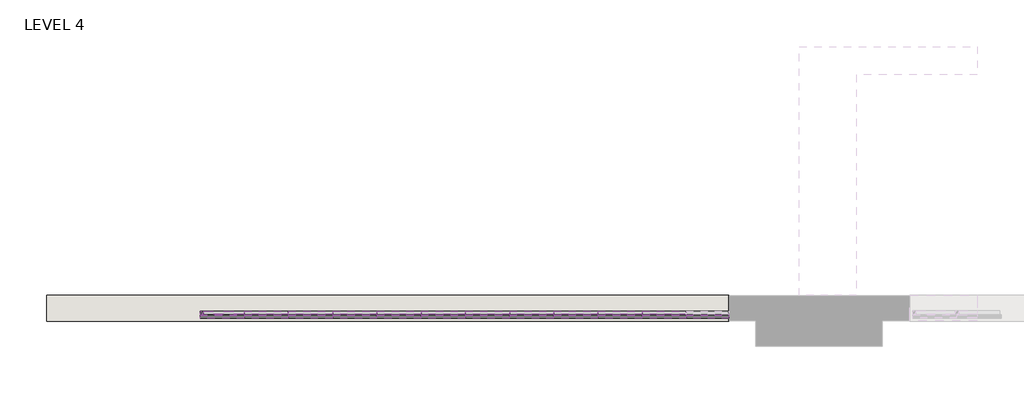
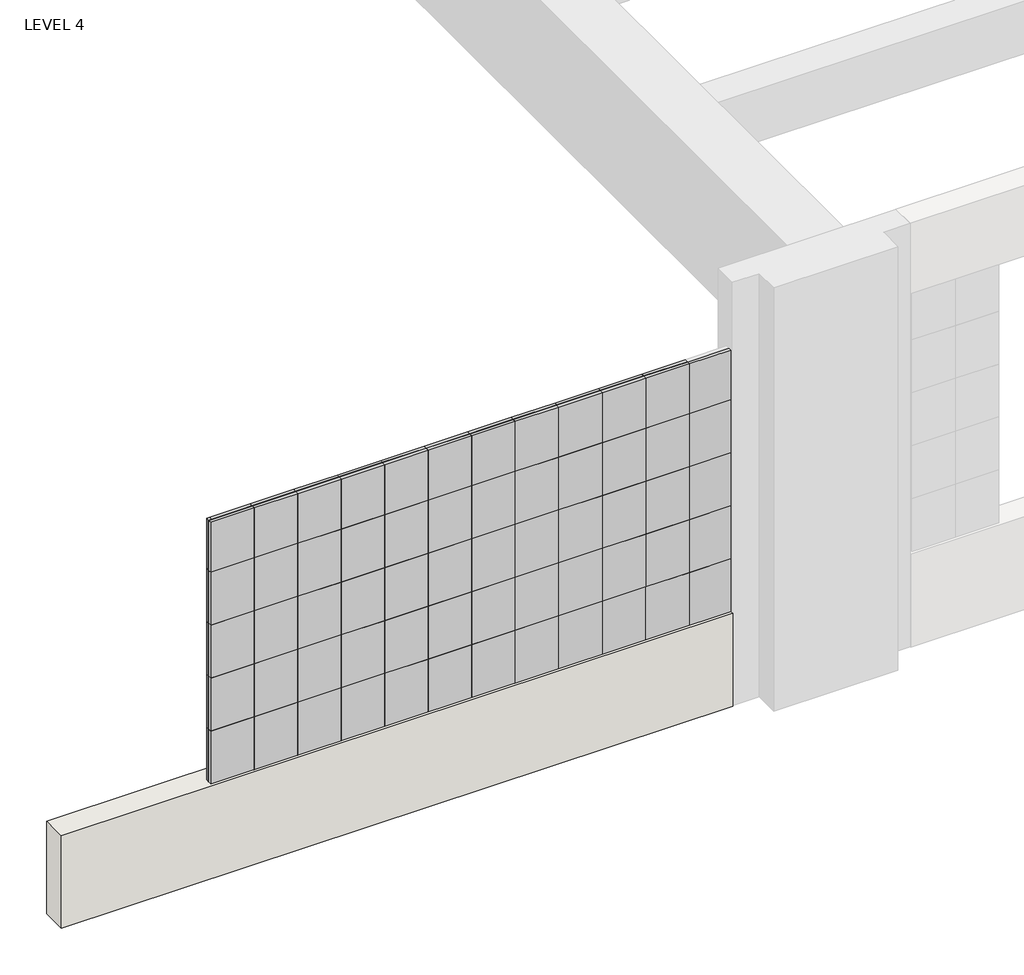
# One storey, part 1 of 26: 72 members, 60 plates, 1 wall.
"""IFC4 building model written with IfcOpenShell, lengths in millimetres."""

from ifc_helpers import new_model, si_unit, origin, origin_with_axes, place, context, project, spatial, polyline, outline, extrude, transform, mapped, element, save
from components import member_038dcf1c, member_0e6c94ff, member_643a3807, member_ec43e15b, member_2d38b123, member_a1b9a255, member_ffd569fb, system_panel_glazed_ab35d819, system_panel_glazed_1edc1c27, system_panel_glazed_418eb6cd, system_panel_glazed_5e6f1a99

model = new_model("IFC4")

# Units and contexts
model_context = context("Model", 3, world=origin())
ifc_project = project(units=[si_unit("LENGTHUNIT", "METRE", prefix="MILLI")], contexts=[model_context])

# Site, building, storey
site = spatial("IfcSite", under=ifc_project)
building = spatial("IfcBuilding", under=site)
storey = spatial("IfcBuildingStorey", under=building, Name="LEVEL 4", Elevation=0.0)

# Members
placement = place(None, origin())
member_shape = member_038dcf1c(model_context)
element("IfcMember", 1, ObjectType="Circular Mullion : 1 1/4\" Square", at=placement, inside=storey, context=model_context, shape_type="MappedRepresentation", body=[
    mapped(member_shape, transform((-48079.0333473, 87285.9413633, 2628.9), x_axis=(-1.0, 0.0, 0.0), y_axis=(0.0, -1.0, 0.0), z_axis=(0.0, 0.0, 1.0))),
])
element("IfcMember", 2, ObjectType="Circular Mullion : 1 1/4\" Square", at=placement, inside=storey, context=model_context, shape_type="MappedRepresentation", body=[
    mapped(member_shape, transform((-48079.0333473, 87285.9413633, 2171.7), x_axis=(-1.0, 0.0, 0.0), y_axis=(0.0, -1.0, 0.0), z_axis=(0.0, 0.0, 1.0))),
])
element("IfcMember", 3, ObjectType="Circular Mullion : 1 1/4\" Square", at=placement, inside=storey, context=model_context, shape_type="MappedRepresentation", body=[
    mapped(member_shape, transform((-48079.0333473, 87285.9413633, 1714.5), x_axis=(-1.0, 0.0, 0.0), y_axis=(0.0, -1.0, 0.0), z_axis=(0.0, 0.0, 1.0))),
])
element("IfcMember", 4, ObjectType="Circular Mullion : 1 1/4\" Square", at=placement, inside=storey, context=model_context, shape_type="MappedRepresentation", body=[
    mapped(member_shape, transform((-48079.0333473, 87285.9413633, 1257.3), x_axis=(-1.0, 0.0, 0.0), y_axis=(0.0, -1.0, 0.0), z_axis=(0.0, 0.0, 1.0))),
])
member_2_shape = member_0e6c94ff(model_context)
element("IfcMember", 5, ObjectType="Circular Mullion : 1 1/4\" Square", at=placement, inside=storey, context=model_context, shape_type="MappedRepresentation", body=[
    mapped(member_2_shape, transform((-48079.0333473, 87285.9413633, 3060.7), x_axis=(-1.0, 0.0, 0.0), y_axis=(0.0, -1.0, 0.0), z_axis=(0.0, 0.0, 1.0))),
])
member_3_shape = member_643a3807(model_context)
element("IfcMember", 6, ObjectType="Circular Mullion : 1 1/4\" Square", at=placement, inside=storey, context=model_context, shape_type="MappedRepresentation", body=[
    mapped(member_3_shape, transform((-47012.233347, 87285.9413633, 1257.3), x_axis=(0.0, 0.0, 1.0), y_axis=(0.0, -1.0, 0.0), z_axis=(1.0, 0.0, 0.0))),
])
element("IfcMember", 7, ObjectType="Circular Mullion : 1 1/4\" Square", at=placement, inside=storey, context=model_context, shape_type="MappedRepresentation", body=[
    mapped(member_3_shape, transform((-47367.833347, 87285.9413633, 1257.3), x_axis=(0.0, 0.0, 1.0), y_axis=(0.0, -1.0, 0.0), z_axis=(1.0, 0.0, 0.0))),
])
element("IfcMember", 8, ObjectType="Circular Mullion : 1 1/4\" Square", at=placement, inside=storey, context=model_context, shape_type="MappedRepresentation", body=[
    mapped(member_3_shape, transform((-46656.633347, 87285.9413633, 1257.3), x_axis=(0.0, 0.0, 1.0), y_axis=(0.0, -1.0, 0.0), z_axis=(1.0, 0.0, 0.0))),
])
element("IfcMember", 9, ObjectType="Circular Mullion : 1 1/4\" Square", at=placement, inside=storey, context=model_context, shape_type="MappedRepresentation", body=[
    mapped(member_3_shape, transform((-46301.033347, 87285.9413633, 1257.3), x_axis=(0.0, 0.0, 1.0), y_axis=(0.0, -1.0, 0.0), z_axis=(1.0, 0.0, 0.0))),
])
element("IfcMember", 10, ObjectType="Circular Mullion : 1 1/4\" Square", at=placement, inside=storey, context=model_context, shape_type="MappedRepresentation", body=[
    mapped(member_3_shape, transform((-45945.433347, 87285.9413633, 1257.3), x_axis=(0.0, 0.0, 1.0), y_axis=(0.0, -1.0, 0.0), z_axis=(1.0, 0.0, 0.0))),
])
element("IfcMember", 11, ObjectType="Circular Mullion : 1 1/4\" Square", at=placement, inside=storey, context=model_context, shape_type="MappedRepresentation", body=[
    mapped(member_3_shape, transform((-45589.833347, 87285.9413633, 1257.3), x_axis=(0.0, 0.0, 1.0), y_axis=(0.0, -1.0, 0.0), z_axis=(1.0, 0.0, 0.0))),
])
element("IfcMember", 12, ObjectType="Circular Mullion : 1 1/4\" Square", at=placement, inside=storey, context=model_context, shape_type="MappedRepresentation", body=[
    mapped(member_3_shape, transform((-45234.233347, 87285.9413633, 1257.3), x_axis=(0.0, 0.0, 1.0), y_axis=(0.0, -1.0, 0.0), z_axis=(1.0, 0.0, 0.0))),
])
element("IfcMember", 13, ObjectType="Circular Mullion : 1 1/4\" Square", at=placement, inside=storey, context=model_context, shape_type="MappedRepresentation", body=[
    mapped(member_3_shape, transform((-44878.633347, 87285.9413633, 1257.3), x_axis=(0.0, 0.0, 1.0), y_axis=(0.0, -1.0, 0.0), z_axis=(1.0, 0.0, 0.0))),
])
element("IfcMember", 14, ObjectType="Circular Mullion : 1 1/4\" Square", at=placement, inside=storey, context=model_context, shape_type="MappedRepresentation", body=[
    mapped(member_3_shape, transform((-44523.033347, 87285.9413633, 1257.3), x_axis=(0.0, 0.0, 1.0), y_axis=(0.0, -1.0, 0.0), z_axis=(1.0, 0.0, 0.0))),
])
element("IfcMember", 15, ObjectType="Circular Mullion : 1 1/4\" Square", at=placement, inside=storey, context=model_context, shape_type="MappedRepresentation", body=[
    mapped(member_3_shape, transform((-44167.433347, 87285.9413633, 1257.3), x_axis=(0.0, 0.0, 1.0), y_axis=(0.0, -1.0, 0.0), z_axis=(1.0, 0.0, 0.0))),
])
element("IfcMember", 16, ObjectType="Circular Mullion : 1 1/4\" Square", at=placement, inside=storey, context=model_context, shape_type="MappedRepresentation", body=[
    mapped(member_3_shape, transform((-47012.233347, 87285.9413633, 1714.5), x_axis=(0.0, 0.0, 1.0), y_axis=(0.0, -1.0, 0.0), z_axis=(1.0, 0.0, 0.0))),
])
element("IfcMember", 17, ObjectType="Circular Mullion : 1 1/4\" Square", at=placement, inside=storey, context=model_context, shape_type="MappedRepresentation", body=[
    mapped(member_3_shape, transform((-47367.833347, 87285.9413633, 1714.5), x_axis=(0.0, 0.0, 1.0), y_axis=(0.0, -1.0, 0.0), z_axis=(1.0, 0.0, 0.0))),
])
element("IfcMember", 18, ObjectType="Circular Mullion : 1 1/4\" Square", at=placement, inside=storey, context=model_context, shape_type="MappedRepresentation", body=[
    mapped(member_3_shape, transform((-46656.633347, 87285.9413633, 1714.5), x_axis=(0.0, 0.0, 1.0), y_axis=(0.0, -1.0, 0.0), z_axis=(1.0, 0.0, 0.0))),
])
element("IfcMember", 19, ObjectType="Circular Mullion : 1 1/4\" Square", at=placement, inside=storey, context=model_context, shape_type="MappedRepresentation", body=[
    mapped(member_3_shape, transform((-46301.033347, 87285.9413633, 1714.5), x_axis=(0.0, 0.0, 1.0), y_axis=(0.0, -1.0, 0.0), z_axis=(1.0, 0.0, 0.0))),
])
element("IfcMember", 20, ObjectType="Circular Mullion : 1 1/4\" Square", at=placement, inside=storey, context=model_context, shape_type="MappedRepresentation", body=[
    mapped(member_3_shape, transform((-45945.433347, 87285.9413633, 1714.5), x_axis=(0.0, 0.0, 1.0), y_axis=(0.0, -1.0, 0.0), z_axis=(1.0, 0.0, 0.0))),
])
element("IfcMember", 21, ObjectType="Circular Mullion : 1 1/4\" Square", at=placement, inside=storey, context=model_context, shape_type="MappedRepresentation", body=[
    mapped(member_3_shape, transform((-45589.833347, 87285.9413633, 1714.5), x_axis=(0.0, 0.0, 1.0), y_axis=(0.0, -1.0, 0.0), z_axis=(1.0, 0.0, 0.0))),
])
element("IfcMember", 22, ObjectType="Circular Mullion : 1 1/4\" Square", at=placement, inside=storey, context=model_context, shape_type="MappedRepresentation", body=[
    mapped(member_3_shape, transform((-45234.233347, 87285.9413633, 1714.5), x_axis=(0.0, 0.0, 1.0), y_axis=(0.0, -1.0, 0.0), z_axis=(1.0, 0.0, 0.0))),
])
element("IfcMember", 23, ObjectType="Circular Mullion : 1 1/4\" Square", at=placement, inside=storey, context=model_context, shape_type="MappedRepresentation", body=[
    mapped(member_3_shape, transform((-44878.633347, 87285.9413633, 1714.5), x_axis=(0.0, 0.0, 1.0), y_axis=(0.0, -1.0, 0.0), z_axis=(1.0, 0.0, 0.0))),
])
element("IfcMember", 24, ObjectType="Circular Mullion : 1 1/4\" Square", at=placement, inside=storey, context=model_context, shape_type="MappedRepresentation", body=[
    mapped(member_3_shape, transform((-44523.033347, 87285.9413633, 1714.5), x_axis=(0.0, 0.0, 1.0), y_axis=(0.0, -1.0, 0.0), z_axis=(1.0, 0.0, 0.0))),
])
element("IfcMember", 25, ObjectType="Circular Mullion : 1 1/4\" Square", at=placement, inside=storey, context=model_context, shape_type="MappedRepresentation", body=[
    mapped(member_3_shape, transform((-44167.433347, 87285.9413633, 1714.5), x_axis=(0.0, 0.0, 1.0), y_axis=(0.0, -1.0, 0.0), z_axis=(1.0, 0.0, 0.0))),
])
element("IfcMember", 26, ObjectType="Circular Mullion : 1 1/4\" Square", at=placement, inside=storey, context=model_context, shape_type="MappedRepresentation", body=[
    mapped(member_3_shape, transform((-47012.233347, 87285.9413633, 2171.7), x_axis=(0.0, 0.0, 1.0), y_axis=(0.0, -1.0, 0.0), z_axis=(1.0, 0.0, 0.0))),
])
element("IfcMember", 27, ObjectType="Circular Mullion : 1 1/4\" Square", at=placement, inside=storey, context=model_context, shape_type="MappedRepresentation", body=[
    mapped(member_3_shape, transform((-47367.833347, 87285.9413633, 2171.7), x_axis=(0.0, 0.0, 1.0), y_axis=(0.0, -1.0, 0.0), z_axis=(1.0, 0.0, 0.0))),
])
element("IfcMember", 28, ObjectType="Circular Mullion : 1 1/4\" Square", at=placement, inside=storey, context=model_context, shape_type="MappedRepresentation", body=[
    mapped(member_3_shape, transform((-46656.633347, 87285.9413633, 2171.7), x_axis=(0.0, 0.0, 1.0), y_axis=(0.0, -1.0, 0.0), z_axis=(1.0, 0.0, 0.0))),
])
element("IfcMember", 29, ObjectType="Circular Mullion : 1 1/4\" Square", at=placement, inside=storey, context=model_context, shape_type="MappedRepresentation", body=[
    mapped(member_3_shape, transform((-46301.033347, 87285.9413633, 2171.7), x_axis=(0.0, 0.0, 1.0), y_axis=(0.0, -1.0, 0.0), z_axis=(1.0, 0.0, 0.0))),
])
element("IfcMember", 30, ObjectType="Circular Mullion : 1 1/4\" Square", at=placement, inside=storey, context=model_context, shape_type="MappedRepresentation", body=[
    mapped(member_3_shape, transform((-45945.433347, 87285.9413633, 2171.7), x_axis=(0.0, 0.0, 1.0), y_axis=(0.0, -1.0, 0.0), z_axis=(1.0, 0.0, 0.0))),
])
element("IfcMember", 31, ObjectType="Circular Mullion : 1 1/4\" Square", at=placement, inside=storey, context=model_context, shape_type="MappedRepresentation", body=[
    mapped(member_3_shape, transform((-45589.833347, 87285.9413633, 2171.7), x_axis=(0.0, 0.0, 1.0), y_axis=(0.0, -1.0, 0.0), z_axis=(1.0, 0.0, 0.0))),
])
element("IfcMember", 32, ObjectType="Circular Mullion : 1 1/4\" Square", at=placement, inside=storey, context=model_context, shape_type="MappedRepresentation", body=[
    mapped(member_3_shape, transform((-45234.233347, 87285.9413633, 2171.7), x_axis=(0.0, 0.0, 1.0), y_axis=(0.0, -1.0, 0.0), z_axis=(1.0, 0.0, 0.0))),
])
element("IfcMember", 33, ObjectType="Circular Mullion : 1 1/4\" Square", at=placement, inside=storey, context=model_context, shape_type="MappedRepresentation", body=[
    mapped(member_3_shape, transform((-44878.633347, 87285.9413633, 2171.7), x_axis=(0.0, 0.0, 1.0), y_axis=(0.0, -1.0, 0.0), z_axis=(1.0, 0.0, 0.0))),
])
element("IfcMember", 34, ObjectType="Circular Mullion : 1 1/4\" Square", at=placement, inside=storey, context=model_context, shape_type="MappedRepresentation", body=[
    mapped(member_3_shape, transform((-44523.033347, 87285.9413633, 2171.7), x_axis=(0.0, 0.0, 1.0), y_axis=(0.0, -1.0, 0.0), z_axis=(1.0, 0.0, 0.0))),
])
element("IfcMember", 35, ObjectType="Circular Mullion : 1 1/4\" Square", at=placement, inside=storey, context=model_context, shape_type="MappedRepresentation", body=[
    mapped(member_3_shape, transform((-44167.433347, 87285.9413633, 2171.7), x_axis=(0.0, 0.0, 1.0), y_axis=(0.0, -1.0, 0.0), z_axis=(1.0, 0.0, 0.0))),
])
element("IfcMember", 36, ObjectType="Circular Mullion : 1 1/4\" Square", at=placement, inside=storey, context=model_context, shape_type="MappedRepresentation", body=[
    mapped(member_3_shape, transform((-47012.233347, 87285.9413633, 2628.9), x_axis=(0.0, 0.0, 1.0), y_axis=(0.0, -1.0, 0.0), z_axis=(1.0, 0.0, 0.0))),
])
element("IfcMember", 37, ObjectType="Circular Mullion : 1 1/4\" Square", at=placement, inside=storey, context=model_context, shape_type="MappedRepresentation", body=[
    mapped(member_3_shape, transform((-47367.833347, 87285.9413633, 2628.9), x_axis=(0.0, 0.0, 1.0), y_axis=(0.0, -1.0, 0.0), z_axis=(1.0, 0.0, 0.0))),
])
element("IfcMember", 38, ObjectType="Circular Mullion : 1 1/4\" Square", at=placement, inside=storey, context=model_context, shape_type="MappedRepresentation", body=[
    mapped(member_3_shape, transform((-46656.633347, 87285.9413633, 2628.9), x_axis=(0.0, 0.0, 1.0), y_axis=(0.0, -1.0, 0.0), z_axis=(1.0, 0.0, 0.0))),
])
element("IfcMember", 39, ObjectType="Circular Mullion : 1 1/4\" Square", at=placement, inside=storey, context=model_context, shape_type="MappedRepresentation", body=[
    mapped(member_3_shape, transform((-46301.033347, 87285.9413633, 2628.9), x_axis=(0.0, 0.0, 1.0), y_axis=(0.0, -1.0, 0.0), z_axis=(1.0, 0.0, 0.0))),
])
element("IfcMember", 40, ObjectType="Circular Mullion : 1 1/4\" Square", at=placement, inside=storey, context=model_context, shape_type="MappedRepresentation", body=[
    mapped(member_3_shape, transform((-45945.433347, 87285.9413633, 2628.9), x_axis=(0.0, 0.0, 1.0), y_axis=(0.0, -1.0, 0.0), z_axis=(1.0, 0.0, 0.0))),
])
element("IfcMember", 41, ObjectType="Circular Mullion : 1 1/4\" Square", at=placement, inside=storey, context=model_context, shape_type="MappedRepresentation", body=[
    mapped(member_3_shape, transform((-45589.833347, 87285.9413633, 2628.9), x_axis=(0.0, 0.0, 1.0), y_axis=(0.0, -1.0, 0.0), z_axis=(1.0, 0.0, 0.0))),
])
element("IfcMember", 42, ObjectType="Circular Mullion : 1 1/4\" Square", at=placement, inside=storey, context=model_context, shape_type="MappedRepresentation", body=[
    mapped(member_3_shape, transform((-45234.233347, 87285.9413633, 2628.9), x_axis=(0.0, 0.0, 1.0), y_axis=(0.0, -1.0, 0.0), z_axis=(1.0, 0.0, 0.0))),
])
element("IfcMember", 43, ObjectType="Circular Mullion : 1 1/4\" Square", at=placement, inside=storey, context=model_context, shape_type="MappedRepresentation", body=[
    mapped(member_3_shape, transform((-44878.633347, 87285.9413633, 2628.9), x_axis=(0.0, 0.0, 1.0), y_axis=(0.0, -1.0, 0.0), z_axis=(1.0, 0.0, 0.0))),
])
element("IfcMember", 44, ObjectType="Circular Mullion : 1 1/4\" Square", at=placement, inside=storey, context=model_context, shape_type="MappedRepresentation", body=[
    mapped(member_3_shape, transform((-44523.033347, 87285.9413633, 2628.9), x_axis=(0.0, 0.0, 1.0), y_axis=(0.0, -1.0, 0.0), z_axis=(1.0, 0.0, 0.0))),
])
element("IfcMember", 45, ObjectType="Circular Mullion : 1 1/4\" Square", at=placement, inside=storey, context=model_context, shape_type="MappedRepresentation", body=[
    mapped(member_3_shape, transform((-44167.433347, 87285.9413633, 2628.9), x_axis=(0.0, 0.0, 1.0), y_axis=(0.0, -1.0, 0.0), z_axis=(1.0, 0.0, 0.0))),
])
member_4_shape = member_ec43e15b(model_context)
element("IfcMember", 46, ObjectType="Circular Mullion : 1 1/4\" Square", at=placement, inside=storey, context=model_context, shape_type="MappedRepresentation", body=[
    mapped(member_4_shape, transform((-47367.833347, 87285.9413633, 3060.7), x_axis=(0.0, 0.0, 1.0), y_axis=(0.0, -1.0, 0.0), z_axis=(1.0, 0.0, 0.0))),
])
element("IfcMember", 47, ObjectType="Circular Mullion : 1 1/4\" Square", at=placement, inside=storey, context=model_context, shape_type="MappedRepresentation", body=[
    mapped(member_4_shape, transform((-47012.233347, 87285.9413633, 3060.7), x_axis=(0.0, 0.0, 1.0), y_axis=(0.0, -1.0, 0.0), z_axis=(1.0, 0.0, 0.0))),
])
element("IfcMember", 48, ObjectType="Circular Mullion : 1 1/4\" Square", at=placement, inside=storey, context=model_context, shape_type="MappedRepresentation", body=[
    mapped(member_4_shape, transform((-46656.633347, 87285.9413633, 3060.7), x_axis=(0.0, 0.0, 1.0), y_axis=(0.0, -1.0, 0.0), z_axis=(1.0, 0.0, 0.0))),
])
element("IfcMember", 49, ObjectType="Circular Mullion : 1 1/4\" Square", at=placement, inside=storey, context=model_context, shape_type="MappedRepresentation", body=[
    mapped(member_4_shape, transform((-46301.033347, 87285.9413633, 3060.7), x_axis=(0.0, 0.0, 1.0), y_axis=(0.0, -1.0, 0.0), z_axis=(1.0, 0.0, 0.0))),
])
element("IfcMember", 50, ObjectType="Circular Mullion : 1 1/4\" Square", at=placement, inside=storey, context=model_context, shape_type="MappedRepresentation", body=[
    mapped(member_4_shape, transform((-45945.433347, 87285.9413633, 3060.7), x_axis=(0.0, 0.0, 1.0), y_axis=(0.0, -1.0, 0.0), z_axis=(1.0, 0.0, 0.0))),
])
element("IfcMember", 51, ObjectType="Circular Mullion : 1 1/4\" Square", at=placement, inside=storey, context=model_context, shape_type="MappedRepresentation", body=[
    mapped(member_4_shape, transform((-45589.833347, 87285.9413633, 3060.7), x_axis=(0.0, 0.0, 1.0), y_axis=(0.0, -1.0, 0.0), z_axis=(1.0, 0.0, 0.0))),
])
element("IfcMember", 52, ObjectType="Circular Mullion : 1 1/4\" Square", at=placement, inside=storey, context=model_context, shape_type="MappedRepresentation", body=[
    mapped(member_4_shape, transform((-45234.233347, 87285.9413633, 3060.7), x_axis=(0.0, 0.0, 1.0), y_axis=(0.0, -1.0, 0.0), z_axis=(1.0, 0.0, 0.0))),
])
element("IfcMember", 53, ObjectType="Circular Mullion : 1 1/4\" Square", at=placement, inside=storey, context=model_context, shape_type="MappedRepresentation", body=[
    mapped(member_4_shape, transform((-44878.633347, 87285.9413633, 3060.7), x_axis=(0.0, 0.0, 1.0), y_axis=(0.0, -1.0, 0.0), z_axis=(1.0, 0.0, 0.0))),
])
element("IfcMember", 54, ObjectType="Circular Mullion : 1 1/4\" Square", at=placement, inside=storey, context=model_context, shape_type="MappedRepresentation", body=[
    mapped(member_4_shape, transform((-44167.433347, 87285.9413633, 3060.7), x_axis=(0.0, 0.0, 1.0), y_axis=(0.0, -1.0, 0.0), z_axis=(1.0, 0.0, 0.0))),
])
element("IfcMember", 55, ObjectType="Circular Mullion : 1 1/4\" Square", at=placement, inside=storey, context=model_context, shape_type="MappedRepresentation", body=[
    mapped(member_4_shape, transform((-44523.033347, 87285.9413633, 3060.7), x_axis=(0.0, 0.0, 1.0), y_axis=(0.0, -1.0, 0.0), z_axis=(1.0, 0.0, 0.0))),
])
member_5_shape = member_2d38b123(model_context)
element("IfcMember", 56, ObjectType="Circular Mullion : 1 1/4\" Square", at=placement, inside=storey, context=model_context, shape_type="MappedRepresentation", body=[
    mapped(member_5_shape, transform((-47723.433347, 87285.9413633, 3060.7), x_axis=(0.0, 0.0, 1.0), y_axis=(0.0, -1.0, 0.0), z_axis=(1.0, 0.0, 0.0))),
])
element("IfcMember", 57, ObjectType="Circular Mullion : 1 1/4\" Square", at=placement, inside=storey, context=model_context, shape_type="MappedRepresentation", body=[
    mapped(member_4_shape, transform((-47367.833347, 87285.9413633, 800.1), x_axis=(0.0, 0.0, -1.0), y_axis=(0.0, -1.0, 0.0), z_axis=(-1.0, 0.0, 0.0))),
])
element("IfcMember", 58, ObjectType="Circular Mullion : 1 1/4\" Square", at=placement, inside=storey, context=model_context, shape_type="MappedRepresentation", body=[
    mapped(member_4_shape, transform((-47723.433347, 87285.9413633, 800.1), x_axis=(0.0, 0.0, -1.0), y_axis=(0.0, -1.0, 0.0), z_axis=(-1.0, 0.0, 0.0))),
])
element("IfcMember", 59, ObjectType="Circular Mullion : 1 1/4\" Square", at=placement, inside=storey, context=model_context, shape_type="MappedRepresentation", body=[
    mapped(member_4_shape, transform((-47012.233347, 87285.9413633, 800.1), x_axis=(0.0, 0.0, -1.0), y_axis=(0.0, -1.0, 0.0), z_axis=(-1.0, 0.0, 0.0))),
])
element("IfcMember", 60, ObjectType="Circular Mullion : 1 1/4\" Square", at=placement, inside=storey, context=model_context, shape_type="MappedRepresentation", body=[
    mapped(member_4_shape, transform((-46656.633347, 87285.9413633, 800.1), x_axis=(0.0, 0.0, -1.0), y_axis=(0.0, -1.0, 0.0), z_axis=(-1.0, 0.0, 0.0))),
])
element("IfcMember", 61, ObjectType="Circular Mullion : 1 1/4\" Square", at=placement, inside=storey, context=model_context, shape_type="MappedRepresentation", body=[
    mapped(member_4_shape, transform((-46301.033347, 87285.9413633, 800.1), x_axis=(0.0, 0.0, -1.0), y_axis=(0.0, -1.0, 0.0), z_axis=(-1.0, 0.0, 0.0))),
])
element("IfcMember", 62, ObjectType="Circular Mullion : 1 1/4\" Square", at=placement, inside=storey, context=model_context, shape_type="MappedRepresentation", body=[
    mapped(member_4_shape, transform((-45945.433347, 87285.9413633, 800.1), x_axis=(0.0, 0.0, -1.0), y_axis=(0.0, -1.0, 0.0), z_axis=(-1.0, 0.0, 0.0))),
])
element("IfcMember", 63, ObjectType="Circular Mullion : 1 1/4\" Square", at=placement, inside=storey, context=model_context, shape_type="MappedRepresentation", body=[
    mapped(member_4_shape, transform((-45589.833347, 87285.9413633, 800.1), x_axis=(0.0, 0.0, -1.0), y_axis=(0.0, -1.0, 0.0), z_axis=(-1.0, 0.0, 0.0))),
])
element("IfcMember", 64, ObjectType="Circular Mullion : 1 1/4\" Square", at=placement, inside=storey, context=model_context, shape_type="MappedRepresentation", body=[
    mapped(member_4_shape, transform((-45234.233347, 87285.9413633, 800.1), x_axis=(0.0, 0.0, -1.0), y_axis=(0.0, -1.0, 0.0), z_axis=(-1.0, 0.0, 0.0))),
])
element("IfcMember", 65, ObjectType="Circular Mullion : 1 1/4\" Square", at=placement, inside=storey, context=model_context, shape_type="MappedRepresentation", body=[
    mapped(member_4_shape, transform((-44878.633347, 87285.9413633, 800.1), x_axis=(0.0, 0.0, -1.0), y_axis=(0.0, -1.0, 0.0), z_axis=(-1.0, 0.0, 0.0))),
])
element("IfcMember", 66, ObjectType="Circular Mullion : 1 1/4\" Square", at=placement, inside=storey, context=model_context, shape_type="MappedRepresentation", body=[
    mapped(member_4_shape, transform((-44523.033347, 87285.9413633, 800.1), x_axis=(0.0, 0.0, -1.0), y_axis=(0.0, -1.0, 0.0), z_axis=(-1.0, 0.0, 0.0))),
])
member_6_shape = member_a1b9a255(model_context)
element("IfcMember", 67, ObjectType="Circular Mullion : 1 1/4\" Square", at=placement, inside=storey, context=model_context, shape_type="MappedRepresentation", body=[
    mapped(member_6_shape, transform((-44167.433347, 87285.9413633, 800.1), x_axis=(0.0, 0.0, -1.0), y_axis=(0.0, -1.0, 0.0), z_axis=(-1.0, 0.0, 0.0))),
])
element("IfcMember", 68, ObjectType="Circular Mullion : 1 1/4\" Square", at=placement, inside=storey, context=model_context, shape_type="MappedRepresentation", body=[
    mapped(member_5_shape, transform((-48053.6333473, 87285.9413633, 800.1), x_axis=(0.0, 0.0, -1.0), y_axis=(0.0, -1.0, 0.0), z_axis=(-1.0, 0.0, 0.0))),
])
member_7_shape = member_ffd569fb(model_context)
element("IfcMember", 69, ObjectType="Circular Mullion : 1 1/4\" Square", at=placement, inside=storey, context=model_context, shape_type="MappedRepresentation", body=[
    mapped(member_7_shape, transform((-47723.433347, 87285.9413633, 1257.3), x_axis=(0.0, 0.0, 1.0), y_axis=(0.0, -1.0, 0.0), z_axis=(1.0, 0.0, 0.0))),
])
element("IfcMember", 70, ObjectType="Circular Mullion : 1 1/4\" Square", at=placement, inside=storey, context=model_context, shape_type="MappedRepresentation", body=[
    mapped(member_7_shape, transform((-47723.433347, 87285.9413633, 1714.5), x_axis=(0.0, 0.0, 1.0), y_axis=(0.0, -1.0, 0.0), z_axis=(1.0, 0.0, 0.0))),
])
element("IfcMember", 71, ObjectType="Circular Mullion : 1 1/4\" Square", at=placement, inside=storey, context=model_context, shape_type="MappedRepresentation", body=[
    mapped(member_7_shape, transform((-47723.433347, 87285.9413633, 2171.7), x_axis=(0.0, 0.0, 1.0), y_axis=(0.0, -1.0, 0.0), z_axis=(1.0, 0.0, 0.0))),
])
element("IfcMember", 72, ObjectType="Circular Mullion : 1 1/4\" Square", at=placement, inside=storey, context=model_context, shape_type="MappedRepresentation", body=[
    mapped(member_7_shape, transform((-47723.433347, 87285.9413633, 2628.9), x_axis=(0.0, 0.0, 1.0), y_axis=(0.0, -1.0, 0.0), z_axis=(1.0, 0.0, 0.0))),
])

# Plates
system_panel_glazed_shape = system_panel_glazed_ab35d819(model_context)
element("IfcPlate", 73, ObjectType="System Panel : Glazed", at=placement, inside=storey, context=model_context, shape_type="MappedRepresentation", body=[
    mapped(system_panel_glazed_shape, transform((-47901.2333471, 87285.9413633, 800.1), x_axis=(1.0, 0.0, 0.0), y_axis=(0.0, 1.0, 0.0), z_axis=(0.0, 0.0, 1.0))),
])
element("IfcPlate", 74, ObjectType="System Panel : Glazed", at=placement, inside=storey, context=model_context, shape_type="MappedRepresentation", body=[
    mapped(system_panel_glazed_shape, transform((-44345.233347, 87285.9413633, 800.1), x_axis=(1.0, 0.0, 0.0), y_axis=(0.0, 1.0, 0.0), z_axis=(0.0, 0.0, 1.0))),
])
element("IfcPlate", 75, ObjectType="System Panel : Glazed", at=placement, inside=storey, context=model_context, shape_type="MappedRepresentation", body=[
    mapped(system_panel_glazed_shape, transform((-44700.833347, 87285.9413633, 800.1), x_axis=(1.0, 0.0, 0.0), y_axis=(0.0, 1.0, 0.0), z_axis=(0.0, 0.0, 1.0))),
])
element("IfcPlate", 76, ObjectType="System Panel : Glazed", at=placement, inside=storey, context=model_context, shape_type="MappedRepresentation", body=[
    mapped(system_panel_glazed_shape, transform((-45056.433347, 87285.9413633, 800.1), x_axis=(1.0, 0.0, 0.0), y_axis=(0.0, 1.0, 0.0), z_axis=(0.0, 0.0, 1.0))),
])
element("IfcPlate", 77, ObjectType="System Panel : Glazed", at=placement, inside=storey, context=model_context, shape_type="MappedRepresentation", body=[
    mapped(system_panel_glazed_shape, transform((-45412.033347, 87285.9413633, 800.1), x_axis=(1.0, 0.0, 0.0), y_axis=(0.0, 1.0, 0.0), z_axis=(0.0, 0.0, 1.0))),
])
element("IfcPlate", 78, ObjectType="System Panel : Glazed", at=placement, inside=storey, context=model_context, shape_type="MappedRepresentation", body=[
    mapped(system_panel_glazed_shape, transform((-45767.633347, 87285.9413633, 800.1), x_axis=(1.0, 0.0, 0.0), y_axis=(0.0, 1.0, 0.0), z_axis=(0.0, 0.0, 1.0))),
])
element("IfcPlate", 79, ObjectType="System Panel : Glazed", at=placement, inside=storey, context=model_context, shape_type="MappedRepresentation", body=[
    mapped(system_panel_glazed_shape, transform((-46123.233347, 87285.9413633, 800.1), x_axis=(1.0, 0.0, 0.0), y_axis=(0.0, 1.0, 0.0), z_axis=(0.0, 0.0, 1.0))),
])
element("IfcPlate", 80, ObjectType="System Panel : Glazed", at=placement, inside=storey, context=model_context, shape_type="MappedRepresentation", body=[
    mapped(system_panel_glazed_shape, transform((-46478.833347, 87285.9413633, 800.1), x_axis=(1.0, 0.0, 0.0), y_axis=(0.0, 1.0, 0.0), z_axis=(0.0, 0.0, 1.0))),
])
element("IfcPlate", 81, ObjectType="System Panel : Glazed", at=placement, inside=storey, context=model_context, shape_type="MappedRepresentation", body=[
    mapped(system_panel_glazed_shape, transform((-46834.433347, 87285.9413633, 800.1), x_axis=(1.0, 0.0, 0.0), y_axis=(0.0, 1.0, 0.0), z_axis=(0.0, 0.0, 1.0))),
])
element("IfcPlate", 82, ObjectType="System Panel : Glazed", at=placement, inside=storey, context=model_context, shape_type="MappedRepresentation", body=[
    mapped(system_panel_glazed_shape, transform((-47901.2333471, 87285.9413633, 1257.3), x_axis=(1.0, 0.0, 0.0), y_axis=(0.0, 1.0, 0.0), z_axis=(0.0, 0.0, 1.0))),
])
element("IfcPlate", 83, ObjectType="System Panel : Glazed", at=placement, inside=storey, context=model_context, shape_type="MappedRepresentation", body=[
    mapped(system_panel_glazed_shape, transform((-44700.833347, 87285.9413633, 1257.3), x_axis=(1.0, 0.0, 0.0), y_axis=(0.0, 1.0, 0.0), z_axis=(0.0, 0.0, 1.0))),
])
element("IfcPlate", 84, ObjectType="System Panel : Glazed", at=placement, inside=storey, context=model_context, shape_type="MappedRepresentation", body=[
    mapped(system_panel_glazed_shape, transform((-45056.433347, 87285.9413633, 1257.3), x_axis=(1.0, 0.0, 0.0), y_axis=(0.0, 1.0, 0.0), z_axis=(0.0, 0.0, 1.0))),
])
element("IfcPlate", 85, ObjectType="System Panel : Glazed", at=placement, inside=storey, context=model_context, shape_type="MappedRepresentation", body=[
    mapped(system_panel_glazed_shape, transform((-45412.033347, 87285.9413633, 1257.3), x_axis=(1.0, 0.0, 0.0), y_axis=(0.0, 1.0, 0.0), z_axis=(0.0, 0.0, 1.0))),
])
element("IfcPlate", 86, ObjectType="System Panel : Glazed", at=placement, inside=storey, context=model_context, shape_type="MappedRepresentation", body=[
    mapped(system_panel_glazed_shape, transform((-45767.633347, 87285.9413633, 1257.3), x_axis=(1.0, 0.0, 0.0), y_axis=(0.0, 1.0, 0.0), z_axis=(0.0, 0.0, 1.0))),
])
element("IfcPlate", 87, ObjectType="System Panel : Glazed", at=placement, inside=storey, context=model_context, shape_type="MappedRepresentation", body=[
    mapped(system_panel_glazed_shape, transform((-46123.233347, 87285.9413633, 1257.3), x_axis=(1.0, 0.0, 0.0), y_axis=(0.0, 1.0, 0.0), z_axis=(0.0, 0.0, 1.0))),
])
element("IfcPlate", 88, ObjectType="System Panel : Glazed", at=placement, inside=storey, context=model_context, shape_type="MappedRepresentation", body=[
    mapped(system_panel_glazed_shape, transform((-46478.833347, 87285.9413633, 1257.3), x_axis=(1.0, 0.0, 0.0), y_axis=(0.0, 1.0, 0.0), z_axis=(0.0, 0.0, 1.0))),
])
element("IfcPlate", 89, ObjectType="System Panel : Glazed", at=placement, inside=storey, context=model_context, shape_type="MappedRepresentation", body=[
    mapped(system_panel_glazed_shape, transform((-46834.433347, 87285.9413633, 1257.3), x_axis=(1.0, 0.0, 0.0), y_axis=(0.0, 1.0, 0.0), z_axis=(0.0, 0.0, 1.0))),
])
element("IfcPlate", 90, ObjectType="System Panel : Glazed", at=placement, inside=storey, context=model_context, shape_type="MappedRepresentation", body=[
    mapped(system_panel_glazed_shape, transform((-44345.233347, 87285.9413633, 1257.3), x_axis=(1.0, 0.0, 0.0), y_axis=(0.0, 1.0, 0.0), z_axis=(0.0, 0.0, 1.0))),
])
element("IfcPlate", 91, ObjectType="System Panel : Glazed", at=placement, inside=storey, context=model_context, shape_type="MappedRepresentation", body=[
    mapped(system_panel_glazed_shape, transform((-47901.2333471, 87285.9413633, 1714.5), x_axis=(1.0, 0.0, 0.0), y_axis=(0.0, 1.0, 0.0), z_axis=(0.0, 0.0, 1.0))),
])
element("IfcPlate", 92, ObjectType="System Panel : Glazed", at=placement, inside=storey, context=model_context, shape_type="MappedRepresentation", body=[
    mapped(system_panel_glazed_shape, transform((-44700.833347, 87285.9413633, 1714.5), x_axis=(1.0, 0.0, 0.0), y_axis=(0.0, 1.0, 0.0), z_axis=(0.0, 0.0, 1.0))),
])
element("IfcPlate", 93, ObjectType="System Panel : Glazed", at=placement, inside=storey, context=model_context, shape_type="MappedRepresentation", body=[
    mapped(system_panel_glazed_shape, transform((-45056.433347, 87285.9413633, 1714.5), x_axis=(1.0, 0.0, 0.0), y_axis=(0.0, 1.0, 0.0), z_axis=(0.0, 0.0, 1.0))),
])
element("IfcPlate", 94, ObjectType="System Panel : Glazed", at=placement, inside=storey, context=model_context, shape_type="MappedRepresentation", body=[
    mapped(system_panel_glazed_shape, transform((-45412.033347, 87285.9413633, 1714.5), x_axis=(1.0, 0.0, 0.0), y_axis=(0.0, 1.0, 0.0), z_axis=(0.0, 0.0, 1.0))),
])
element("IfcPlate", 95, ObjectType="System Panel : Glazed", at=placement, inside=storey, context=model_context, shape_type="MappedRepresentation", body=[
    mapped(system_panel_glazed_shape, transform((-45767.633347, 87285.9413633, 1714.5), x_axis=(1.0, 0.0, 0.0), y_axis=(0.0, 1.0, 0.0), z_axis=(0.0, 0.0, 1.0))),
])
element("IfcPlate", 96, ObjectType="System Panel : Glazed", at=placement, inside=storey, context=model_context, shape_type="MappedRepresentation", body=[
    mapped(system_panel_glazed_shape, transform((-46123.233347, 87285.9413633, 1714.5), x_axis=(1.0, 0.0, 0.0), y_axis=(0.0, 1.0, 0.0), z_axis=(0.0, 0.0, 1.0))),
])
element("IfcPlate", 97, ObjectType="System Panel : Glazed", at=placement, inside=storey, context=model_context, shape_type="MappedRepresentation", body=[
    mapped(system_panel_glazed_shape, transform((-46478.833347, 87285.9413633, 1714.5), x_axis=(1.0, 0.0, 0.0), y_axis=(0.0, 1.0, 0.0), z_axis=(0.0, 0.0, 1.0))),
])
element("IfcPlate", 98, ObjectType="System Panel : Glazed", at=placement, inside=storey, context=model_context, shape_type="MappedRepresentation", body=[
    mapped(system_panel_glazed_shape, transform((-46834.433347, 87285.9413633, 1714.5), x_axis=(1.0, 0.0, 0.0), y_axis=(0.0, 1.0, 0.0), z_axis=(0.0, 0.0, 1.0))),
])
element("IfcPlate", 99, ObjectType="System Panel : Glazed", at=placement, inside=storey, context=model_context, shape_type="MappedRepresentation", body=[
    mapped(system_panel_glazed_shape, transform((-44345.233347, 87285.9413633, 1714.5), x_axis=(1.0, 0.0, 0.0), y_axis=(0.0, 1.0, 0.0), z_axis=(0.0, 0.0, 1.0))),
])
element("IfcPlate", 100, ObjectType="System Panel : Glazed", at=placement, inside=storey, context=model_context, shape_type="MappedRepresentation", body=[
    mapped(system_panel_glazed_shape, transform((-47901.2333471, 87285.9413633, 2171.7), x_axis=(1.0, 0.0, 0.0), y_axis=(0.0, 1.0, 0.0), z_axis=(0.0, 0.0, 1.0))),
])
element("IfcPlate", 101, ObjectType="System Panel : Glazed", at=placement, inside=storey, context=model_context, shape_type="MappedRepresentation", body=[
    mapped(system_panel_glazed_shape, transform((-44700.833347, 87285.9413633, 2171.7), x_axis=(1.0, 0.0, 0.0), y_axis=(0.0, 1.0, 0.0), z_axis=(0.0, 0.0, 1.0))),
])
element("IfcPlate", 102, ObjectType="System Panel : Glazed", at=placement, inside=storey, context=model_context, shape_type="MappedRepresentation", body=[
    mapped(system_panel_glazed_shape, transform((-45056.433347, 87285.9413633, 2171.7), x_axis=(1.0, 0.0, 0.0), y_axis=(0.0, 1.0, 0.0), z_axis=(0.0, 0.0, 1.0))),
])
element("IfcPlate", 103, ObjectType="System Panel : Glazed", at=placement, inside=storey, context=model_context, shape_type="MappedRepresentation", body=[
    mapped(system_panel_glazed_shape, transform((-45412.033347, 87285.9413633, 2171.7), x_axis=(1.0, 0.0, 0.0), y_axis=(0.0, 1.0, 0.0), z_axis=(0.0, 0.0, 1.0))),
])
element("IfcPlate", 104, ObjectType="System Panel : Glazed", at=placement, inside=storey, context=model_context, shape_type="MappedRepresentation", body=[
    mapped(system_panel_glazed_shape, transform((-45767.633347, 87285.9413633, 2171.7), x_axis=(1.0, 0.0, 0.0), y_axis=(0.0, 1.0, 0.0), z_axis=(0.0, 0.0, 1.0))),
])
element("IfcPlate", 105, ObjectType="System Panel : Glazed", at=placement, inside=storey, context=model_context, shape_type="MappedRepresentation", body=[
    mapped(system_panel_glazed_shape, transform((-46123.233347, 87285.9413633, 2171.7), x_axis=(1.0, 0.0, 0.0), y_axis=(0.0, 1.0, 0.0), z_axis=(0.0, 0.0, 1.0))),
])
element("IfcPlate", 106, ObjectType="System Panel : Glazed", at=placement, inside=storey, context=model_context, shape_type="MappedRepresentation", body=[
    mapped(system_panel_glazed_shape, transform((-46478.833347, 87285.9413633, 2171.7), x_axis=(1.0, 0.0, 0.0), y_axis=(0.0, 1.0, 0.0), z_axis=(0.0, 0.0, 1.0))),
])
element("IfcPlate", 107, ObjectType="System Panel : Glazed", at=placement, inside=storey, context=model_context, shape_type="MappedRepresentation", body=[
    mapped(system_panel_glazed_shape, transform((-46834.433347, 87285.9413633, 2171.7), x_axis=(1.0, 0.0, 0.0), y_axis=(0.0, 1.0, 0.0), z_axis=(0.0, 0.0, 1.0))),
])
element("IfcPlate", 108, ObjectType="System Panel : Glazed", at=placement, inside=storey, context=model_context, shape_type="MappedRepresentation", body=[
    mapped(system_panel_glazed_shape, transform((-44345.233347, 87285.9413633, 2171.7), x_axis=(1.0, 0.0, 0.0), y_axis=(0.0, 1.0, 0.0), z_axis=(0.0, 0.0, 1.0))),
])
element("IfcPlate", 109, ObjectType="System Panel : Glazed", at=placement, inside=storey, context=model_context, shape_type="MappedRepresentation", body=[
    mapped(system_panel_glazed_shape, transform((-47545.633347, 87285.9413633, 800.1), x_axis=(1.0, 0.0, 0.0), y_axis=(0.0, 1.0, 0.0), z_axis=(0.0, 0.0, 1.0))),
])
element("IfcPlate", 110, ObjectType="System Panel : Glazed", at=placement, inside=storey, context=model_context, shape_type="MappedRepresentation", body=[
    mapped(system_panel_glazed_shape, transform((-47545.633347, 87285.9413633, 1257.3), x_axis=(1.0, 0.0, 0.0), y_axis=(0.0, 1.0, 0.0), z_axis=(0.0, 0.0, 1.0))),
])
element("IfcPlate", 111, ObjectType="System Panel : Glazed", at=placement, inside=storey, context=model_context, shape_type="MappedRepresentation", body=[
    mapped(system_panel_glazed_shape, transform((-47545.633347, 87285.9413633, 1714.5), x_axis=(1.0, 0.0, 0.0), y_axis=(0.0, 1.0, 0.0), z_axis=(0.0, 0.0, 1.0))),
])
element("IfcPlate", 112, ObjectType="System Panel : Glazed", at=placement, inside=storey, context=model_context, shape_type="MappedRepresentation", body=[
    mapped(system_panel_glazed_shape, transform((-47545.633347, 87285.9413633, 2171.7), x_axis=(1.0, 0.0, 0.0), y_axis=(0.0, 1.0, 0.0), z_axis=(0.0, 0.0, 1.0))),
])
element("IfcPlate", 113, ObjectType="System Panel : Glazed", at=placement, inside=storey, context=model_context, shape_type="MappedRepresentation", body=[
    mapped(system_panel_glazed_shape, transform((-47190.033347, 87285.9413633, 800.1), x_axis=(1.0, 0.0, 0.0), y_axis=(0.0, 1.0, 0.0), z_axis=(0.0, 0.0, 1.0))),
])
element("IfcPlate", 114, ObjectType="System Panel : Glazed", at=placement, inside=storey, context=model_context, shape_type="MappedRepresentation", body=[
    mapped(system_panel_glazed_shape, transform((-47190.033347, 87285.9413633, 1257.3), x_axis=(1.0, 0.0, 0.0), y_axis=(0.0, 1.0, 0.0), z_axis=(0.0, 0.0, 1.0))),
])
element("IfcPlate", 115, ObjectType="System Panel : Glazed", at=placement, inside=storey, context=model_context, shape_type="MappedRepresentation", body=[
    mapped(system_panel_glazed_shape, transform((-47190.033347, 87285.9413633, 1714.5), x_axis=(1.0, 0.0, 0.0), y_axis=(0.0, 1.0, 0.0), z_axis=(0.0, 0.0, 1.0))),
])
element("IfcPlate", 116, ObjectType="System Panel : Glazed", at=placement, inside=storey, context=model_context, shape_type="MappedRepresentation", body=[
    mapped(system_panel_glazed_shape, transform((-47190.033347, 87285.9413633, 2171.7), x_axis=(1.0, 0.0, 0.0), y_axis=(0.0, 1.0, 0.0), z_axis=(0.0, 0.0, 1.0))),
])
system_panel_glazed_2_shape = system_panel_glazed_1edc1c27(model_context)
element("IfcPlate", 117, ObjectType="System Panel : Glazed", at=placement, inside=storey, context=model_context, shape_type="MappedRepresentation", body=[
    mapped(system_panel_glazed_2_shape, transform((-43997.1771471, 87285.9413633, 800.1), x_axis=(1.0, 0.0, 0.0), y_axis=(0.0, 1.0, 0.0), z_axis=(0.0, 0.0, 1.0))),
])
element("IfcPlate", 118, ObjectType="System Panel : Glazed", at=placement, inside=storey, context=model_context, shape_type="MappedRepresentation", body=[
    mapped(system_panel_glazed_2_shape, transform((-43997.1771471, 87285.9413633, 1257.3), x_axis=(1.0, 0.0, 0.0), y_axis=(0.0, 1.0, 0.0), z_axis=(0.0, 0.0, 1.0))),
])
element("IfcPlate", 119, ObjectType="System Panel : Glazed", at=placement, inside=storey, context=model_context, shape_type="MappedRepresentation", body=[
    mapped(system_panel_glazed_2_shape, transform((-43997.1771471, 87285.9413633, 1714.5), x_axis=(1.0, 0.0, 0.0), y_axis=(0.0, 1.0, 0.0), z_axis=(0.0, 0.0, 1.0))),
])
element("IfcPlate", 120, ObjectType="System Panel : Glazed", at=placement, inside=storey, context=model_context, shape_type="MappedRepresentation", body=[
    mapped(system_panel_glazed_2_shape, transform((-43997.1771471, 87285.9413633, 2171.7), x_axis=(1.0, 0.0, 0.0), y_axis=(0.0, 1.0, 0.0), z_axis=(0.0, 0.0, 1.0))),
])
system_panel_glazed_3_shape = system_panel_glazed_418eb6cd(model_context)
element("IfcPlate", 121, ObjectType="System Panel : Glazed", at=placement, inside=storey, context=model_context, shape_type="MappedRepresentation", body=[
    mapped(system_panel_glazed_3_shape, transform((-47901.2333471, 87285.9413633, 2628.9), x_axis=(1.0, 0.0, 0.0), y_axis=(0.0, 1.0, 0.0), z_axis=(0.0, 0.0, 1.0))),
])
element("IfcPlate", 122, ObjectType="System Panel : Glazed", at=placement, inside=storey, context=model_context, shape_type="MappedRepresentation", body=[
    mapped(system_panel_glazed_3_shape, transform((-44700.833347, 87285.9413633, 2628.9), x_axis=(1.0, 0.0, 0.0), y_axis=(0.0, 1.0, 0.0), z_axis=(0.0, 0.0, 1.0))),
])
element("IfcPlate", 123, ObjectType="System Panel : Glazed", at=placement, inside=storey, context=model_context, shape_type="MappedRepresentation", body=[
    mapped(system_panel_glazed_3_shape, transform((-45056.433347, 87285.9413633, 2628.9), x_axis=(1.0, 0.0, 0.0), y_axis=(0.0, 1.0, 0.0), z_axis=(0.0, 0.0, 1.0))),
])
element("IfcPlate", 124, ObjectType="System Panel : Glazed", at=placement, inside=storey, context=model_context, shape_type="MappedRepresentation", body=[
    mapped(system_panel_glazed_3_shape, transform((-45412.033347, 87285.9413633, 2628.9), x_axis=(1.0, 0.0, 0.0), y_axis=(0.0, 1.0, 0.0), z_axis=(0.0, 0.0, 1.0))),
])
element("IfcPlate", 125, ObjectType="System Panel : Glazed", at=placement, inside=storey, context=model_context, shape_type="MappedRepresentation", body=[
    mapped(system_panel_glazed_3_shape, transform((-45767.633347, 87285.9413633, 2628.9), x_axis=(1.0, 0.0, 0.0), y_axis=(0.0, 1.0, 0.0), z_axis=(0.0, 0.0, 1.0))),
])
element("IfcPlate", 126, ObjectType="System Panel : Glazed", at=placement, inside=storey, context=model_context, shape_type="MappedRepresentation", body=[
    mapped(system_panel_glazed_3_shape, transform((-46123.233347, 87285.9413633, 2628.9), x_axis=(1.0, 0.0, 0.0), y_axis=(0.0, 1.0, 0.0), z_axis=(0.0, 0.0, 1.0))),
])
element("IfcPlate", 127, ObjectType="System Panel : Glazed", at=placement, inside=storey, context=model_context, shape_type="MappedRepresentation", body=[
    mapped(system_panel_glazed_3_shape, transform((-46478.833347, 87285.9413633, 2628.9), x_axis=(1.0, 0.0, 0.0), y_axis=(0.0, 1.0, 0.0), z_axis=(0.0, 0.0, 1.0))),
])
element("IfcPlate", 128, ObjectType="System Panel : Glazed", at=placement, inside=storey, context=model_context, shape_type="MappedRepresentation", body=[
    mapped(system_panel_glazed_3_shape, transform((-46834.433347, 87285.9413633, 2628.9), x_axis=(1.0, 0.0, 0.0), y_axis=(0.0, 1.0, 0.0), z_axis=(0.0, 0.0, 1.0))),
])
element("IfcPlate", 129, ObjectType="System Panel : Glazed", at=placement, inside=storey, context=model_context, shape_type="MappedRepresentation", body=[
    mapped(system_panel_glazed_3_shape, transform((-44345.233347, 87285.9413633, 2628.9), x_axis=(1.0, 0.0, 0.0), y_axis=(0.0, 1.0, 0.0), z_axis=(0.0, 0.0, 1.0))),
])
element("IfcPlate", 130, ObjectType="System Panel : Glazed", at=placement, inside=storey, context=model_context, shape_type="MappedRepresentation", body=[
    mapped(system_panel_glazed_3_shape, transform((-47545.633347, 87285.9413633, 2628.9), x_axis=(1.0, 0.0, 0.0), y_axis=(0.0, 1.0, 0.0), z_axis=(0.0, 0.0, 1.0))),
])
element("IfcPlate", 131, ObjectType="System Panel : Glazed", at=placement, inside=storey, context=model_context, shape_type="MappedRepresentation", body=[
    mapped(system_panel_glazed_3_shape, transform((-47190.033347, 87285.9413633, 2628.9), x_axis=(1.0, 0.0, 0.0), y_axis=(0.0, 1.0, 0.0), z_axis=(0.0, 0.0, 1.0))),
])
system_panel_glazed_4_shape = system_panel_glazed_5e6f1a99(model_context)
element("IfcPlate", 132, ObjectType="System Panel : Glazed", at=placement, inside=storey, context=model_context, shape_type="MappedRepresentation", body=[
    mapped(system_panel_glazed_4_shape, transform((-43997.1771471, 87285.9413633, 2628.9), x_axis=(1.0, 0.0, 0.0), y_axis=(0.0, 1.0, 0.0), z_axis=(0.0, 0.0, 1.0))),
])

# Wall
element("IfcWall", 133, ObjectType="_Generic - 8 1/4\"", at=placement, inside=storey, context=model_context, shape_type="SweptSolid", body=[
    extrude(outline(polyline([(-43826.9209473, 87215.9962167), (-49313.3209473, 87215.9962167), (-49313.3209473, 87425.5462167), (-43826.9209473, 87425.5462167), (-43826.9209473, 87215.9962167)])), origin_with_axes(), (0.0, 0.0, 1.0), 800.1),
])

save(model, "model.ifc")
